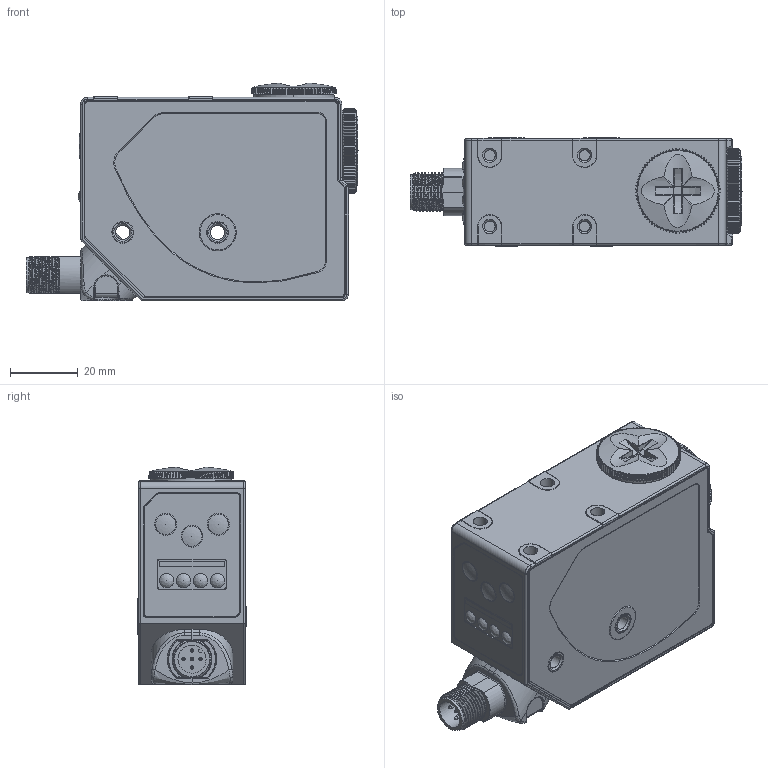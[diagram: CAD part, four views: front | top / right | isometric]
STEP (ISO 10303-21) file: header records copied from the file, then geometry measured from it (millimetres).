
FILE_DESCRIPTION(/* description */ (''),/* implementation_level */ '2;1');
FILE_NAME(/* name */ 'AP005228_01_DSD-0524.stp',/* time_stamp */ '2013-02-25T17:15:52+01:00',/* author */ (''),/* organization */ (''),/* preprocessor_version */ 'ST-DEVELOPER v11',/* originating_system */ 'SIEMENS PLM Software NX 7.5',/* authorisation */ '');
FILE_SCHEMA (('AP203_CONFIGURATION_CONTROLLED_3D_DESIGN_OF_MECHANICAL_PARTS_AND_ASSEMBLIES_MIM_LF'));
Products named in the file (1): AP005228_01
Bounding box: 97.91 x 31.9 x 64.21 mm (x, y, z)
Volume: 147729.7 mm3; surface area: 21951.5 mm2
Topology: 1 solids, 1 shells, 1789 faces, 4602 edges, 2854 vertices
Faces by surface type: bspline 606, plane 488, cylinder 485, cone 103, torus 102, sphere 5
Full cylindrical faces by diameter (mm): 1 x5, 4.2 x2, 8.3 x1, 10.4 x1, 11 x1, 20 x1, 23.8 x1, 24 x2
Entity records: 90857 total; most frequent: CARTESIAN_POINT 58329, ORIENTED_EDGE 9060, EDGE_CURVE 4530, B_SPLINE_CURVE_WITH_KNOTS 3483, DIRECTION 3165, VERTEX_POINT 2840, EDGE_LOOP 1883, ADVANCED_FACE 1789
